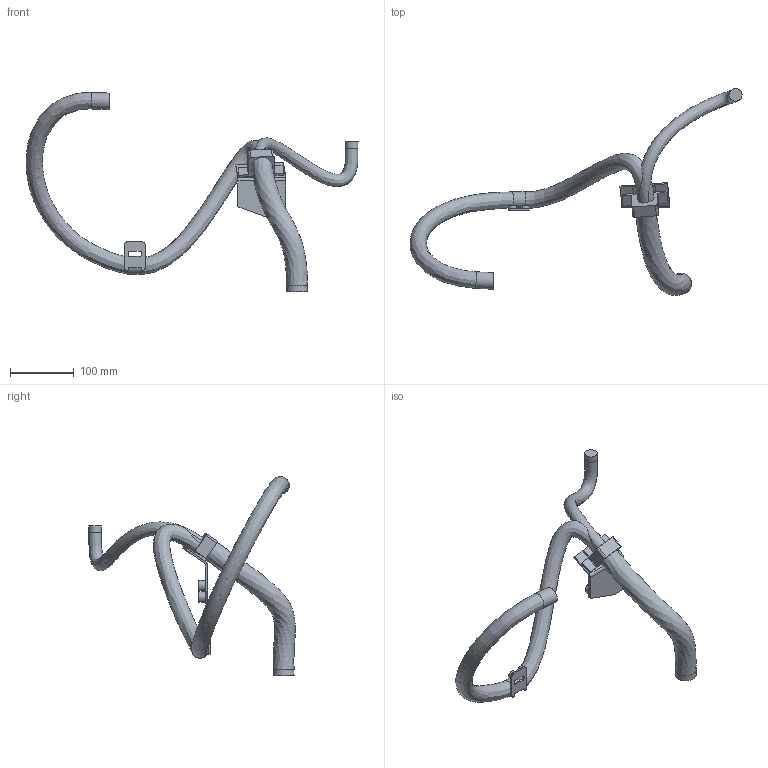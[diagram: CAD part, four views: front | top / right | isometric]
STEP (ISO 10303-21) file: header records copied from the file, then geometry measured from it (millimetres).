
FILE_DESCRIPTION (( 'STEP AP214' ), '1' );
FILE_NAME ('IRB7720_All-290_OC_00_LINK03m_CABLE.step', '2026-01-28T13:12:28', ( '' ), ( '' ), 'SwSTEP 2.0', 'SolidWorks 2024', '' );
FILE_SCHEMA (( 'AUTOMOTIVE_DESIGN' ));
Length unit declared in the file: millimetre
Products named in the file (1): IRB7720_All-290_OC_00_LINK03m_CABLE
Bounding box: 522.01 x 324.87 x 313.03 mm (x, y, z)
Volume: 785810.4 mm3; surface area: 131660.9 mm2
Topology: 1 solids, 1 shells, 81 faces, 211 edges, 139 vertices
Faces by surface type: plane 48, cylinder 26, bspline 7
Full cylindrical faces by diameter (mm): 0.882 x1, 12 x2, 16.27 x2, 20 x1, 26 x2
Entity records: 5218 total; most frequent: CARTESIAN_POINT 2492, DIRECTION 374, ORIENTED_EDGE 366, EDGE_CURVE 183, AXIS2_PLACEMENT_3D 128, VERTEX_POINT 126, LINE 118, VECTOR 118
